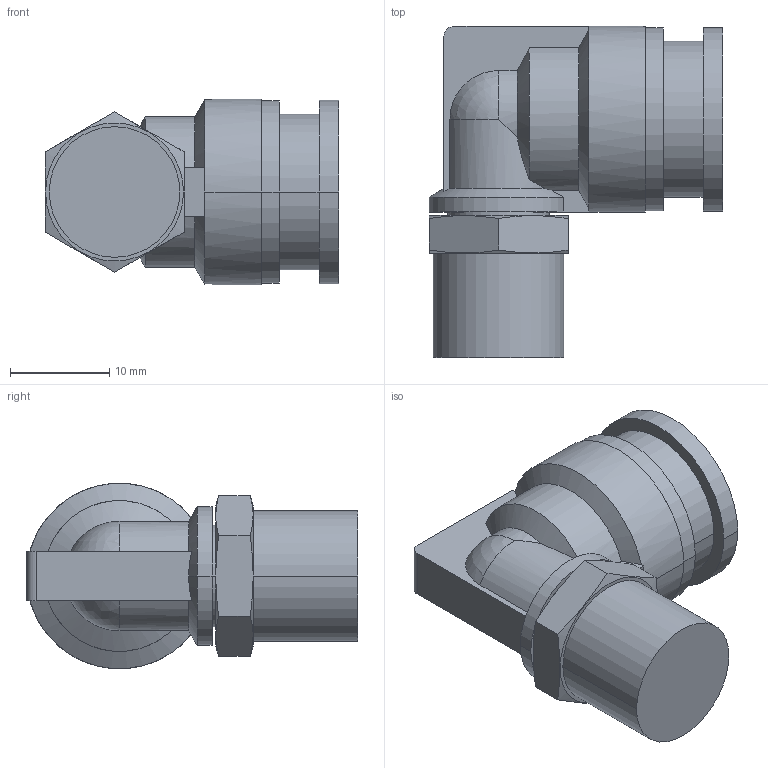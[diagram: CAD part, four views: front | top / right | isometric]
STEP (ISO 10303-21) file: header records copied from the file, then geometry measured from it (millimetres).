
FILE_DESCRIPTION( ( '' ), '1' );
FILE_NAME( 'G:/SMC狟婥/KQ2L12-02AS.stp', '2023-03-07T03:06:11', ( '' ), ( '' ), ' ', ' ', ' ' );
FILE_SCHEMA( ( 'CONFIG_CONTROL_DESIGN' ) );
Length unit declared in the file: millimetre
Products named in the file (1): 1
Bounding box: 29.6 x 33.35 x 18.7 mm (x, y, z)
Volume: 6011.8 mm3; surface area: 3767.3 mm2
Topology: 1 solids, 1 shells, 60 faces, 146 edges, 93 vertices
Faces by surface type: plane 25, cylinder 23, cone 10, sphere 2
Entity records: 1796 total; most frequent: CARTESIAN_POINT 392, DIRECTION 290, ORIENTED_EDGE 288, EDGE_CURVE 144, AXIS2_PLACEMENT_3D 119, VERTEX_POINT 93, EDGE_LOOP 67, ADVANCED_FACE 60
